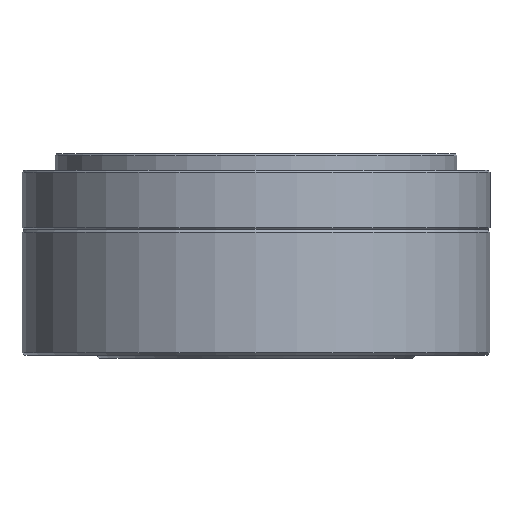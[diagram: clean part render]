
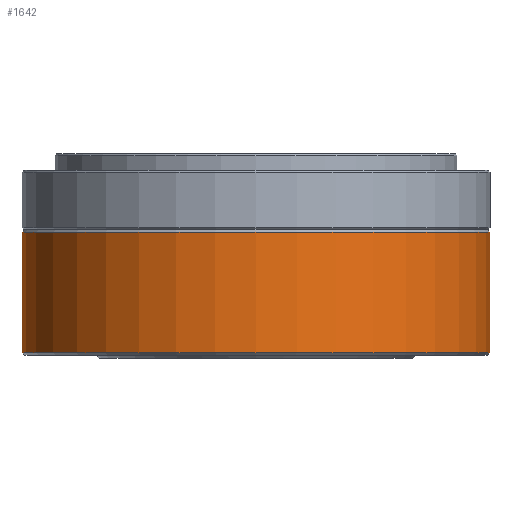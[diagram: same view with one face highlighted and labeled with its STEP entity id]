
A CAD part, front view. The second image highlights one B-rep face of the part: STEP entity #1642.
In plain terms, the highlighted cylindrical face has radius 42.5 mm (diameter 85 mm), a full revolution.
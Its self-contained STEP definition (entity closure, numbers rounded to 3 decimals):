
#1465=CYLINDRICAL_SURFACE('',#8700,42.5);
#1642=ADVANCED_FACE('',(#2366,#2367),#1465,.T.);
#2366=FACE_BOUND('',#3314,.T.);
#2367=FACE_BOUND('',#3315,.T.);
#3314=EDGE_LOOP('',(#4388));
#3315=EDGE_LOOP('',(#4389));
#4388=ORIENTED_EDGE('',*,*,#7059,.F.);
#4389=ORIENTED_EDGE('',*,*,#7060,.T.);
#6250=VERTEX_POINT('',#12798);
#6251=VERTEX_POINT('',#12800);
#7059=EDGE_CURVE('',#6250,#6250,#7992,.T.);
#7060=EDGE_CURVE('',#6251,#6251,#7993,.T.);
#7992=CIRCLE('',#8698,42.5);
#7993=CIRCLE('',#8699,42.5);
#8698=AXIS2_PLACEMENT_3D('',#12797,#10029,#10030);
#8699=AXIS2_PLACEMENT_3D('',#12799,#10031,#10032);
#8700=AXIS2_PLACEMENT_3D('',#12801,#10033,#10034);
#10029=DIRECTION('',(0.,0.,-1.));
#10030=DIRECTION('',(-1.,0.,0.));
#10031=DIRECTION('',(0.,0.,-1.));
#10032=DIRECTION('',(-1.,0.,0.));
#10033=DIRECTION('',(0.,0.,-1.));
#10034=DIRECTION('',(-1.,0.,0.));
#12797=CARTESIAN_POINT('',(0.,0.,1.));
#12798=CARTESIAN_POINT('',(-42.5,0.,1.));
#12799=CARTESIAN_POINT('',(0.,0.,22.9));
#12800=CARTESIAN_POINT('',(-42.5,0.,22.9));
#12801=CARTESIAN_POINT('',(0.,0.,0.));
